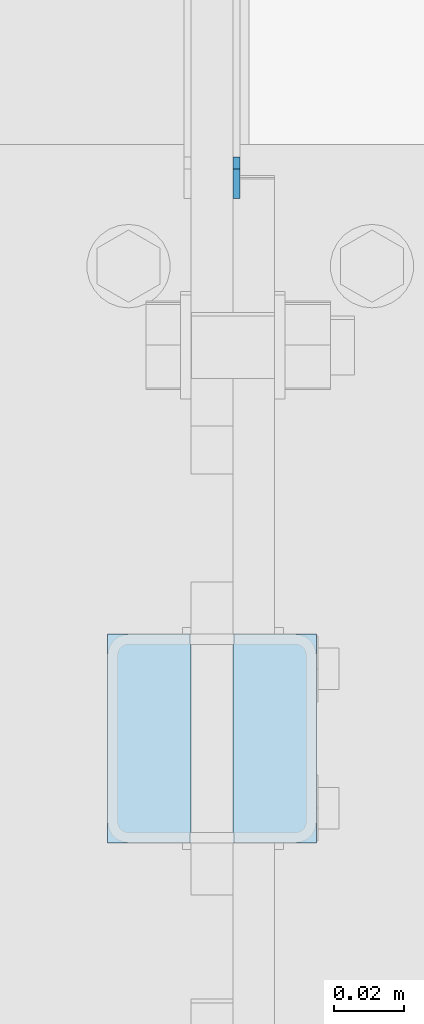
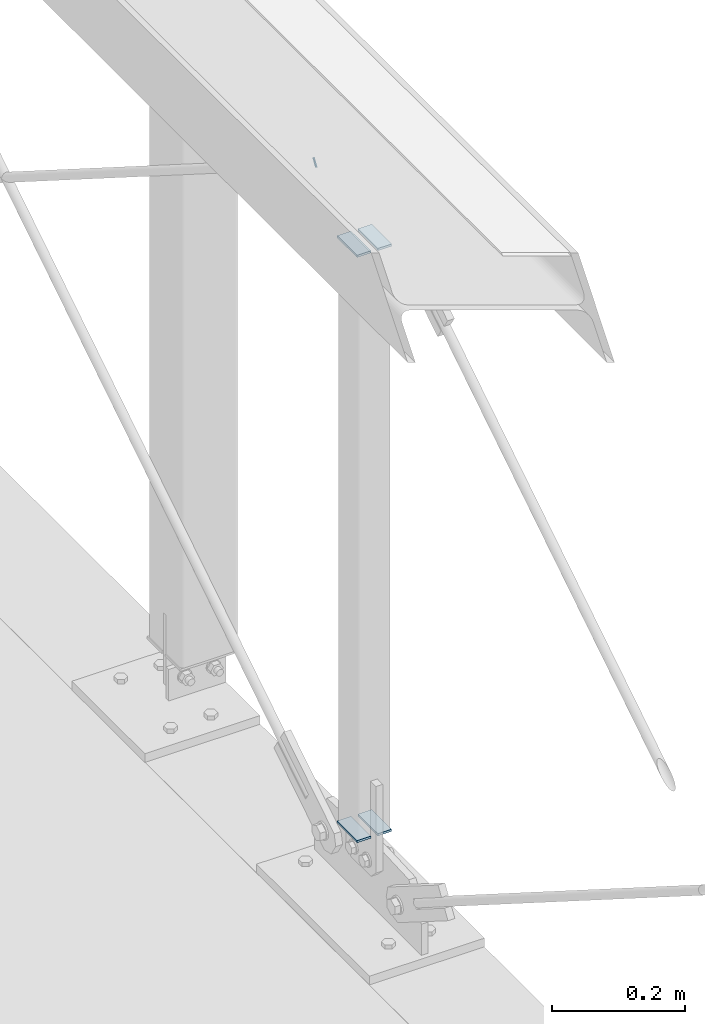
# One storey, part 212 of 271: 5 plates, 2 elements without a shape of their own.
"""IFC2X3 building model written with IfcOpenShell, lengths in millimetres."""

from ifc_helpers import new_model, si_unit, frame, origin_with_axes, place, context, subcontext, project, spatial, polyline, outline, extrude, material, type_object, element, aggregate, save


model = new_model("IFC2X3")

# Units and contexts
model_context = context("Model", 3, precision=1e-05, world=origin_with_axes())
body_context = subcontext(model_context, "Body", "Model", "MODEL_VIEW")
ifc_project = project(units=[si_unit("LENGTHUNIT", "METRE", prefix="MILLI"), si_unit("AREAUNIT", "SQUARE_METRE"), si_unit("VOLUMEUNIT", "CUBIC_METRE"), si_unit("MASSUNIT", "GRAM", prefix="KILO"), si_unit("TIMEUNIT", "SECOND"), si_unit("PLANEANGLEUNIT", "RADIAN"), si_unit("SOLIDANGLEUNIT", "STERADIAN"), si_unit("THERMODYNAMICTEMPERATUREUNIT", "DEGREE_CELSIUS"), si_unit("LUMINOUSINTENSITYUNIT", "LUMEN")], contexts=[model_context])

# Site, building, storey
site_placement = place(None, origin_with_axes())
site = spatial("IfcSite", under=ifc_project, at=site_placement, Name="Undefined", CompositionType="ELEMENT")
building_placement = place(site_placement, origin_with_axes())
building = spatial("IfcBuilding", under=site, at=building_placement, Name="Undefined", CompositionType="ELEMENT")
storey_placement = place(building_placement, origin_with_axes())
storey = spatial("IfcBuildingStorey", under=building, at=storey_placement, Name="Undefined", CompositionType="ELEMENT", Elevation=0.0)

# Assembly, plate
assembly_1_placement = place(storey_placement, origin_with_axes())
assembly_1 = element("IfcElementAssembly", 1, at=assembly_1_placement, inside=storey, AssemblyPlace="NOTDEFINED", PredefinedType="RIGID_FRAME")
ifc_material = material(Name="STEEL/S355JR")
plate_type_1 = type_object("IfcPlateType", Name="BL4*2", PredefinedType="NOTDEFINED")
plate_1_placement = place(assembly_1_placement, frame((12605.751374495, 2344.65152376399, 1269.00951553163), z_axis=(0.0, 0.84477188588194, -0.535126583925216), x_axis=(0.0, -0.535126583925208, -0.844771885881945)))
plate_1 = element("IfcPlate", 2, at=plate_1_placement, type_object=plate_type_1, material=ifc_material, Name="BLACHA", ObjectType="BL4*2", context=body_context, shape_type="SweptSolid", body=[
    extrude(outline(polyline([(0.0, 0.0), (15.9999980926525, -7.67386154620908e-13), (15.9999980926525, 1.99999964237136), (0.0, 1.99999964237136), (0.0, 0.0)])), frame((0.0, 0.0, -2.0), z_axis=(0.0, 0.0, 1.0), x_axis=(1.0, 0.0, 0.0)), (0.0, 0.0, 1.0), 4.0),
])
aggregate(assembly_1, [plate_1])

# Assembly, plates
assembly_2_placement = place(storey_placement, origin_with_axes())
assembly_2 = element("IfcElementAssembly", 3, at=assembly_2_placement, inside=storey, AssemblyPlace="NOTDEFINED", PredefinedType="RIGID_FRAME")
plate_type_2 = type_object("IfcPlateType", Name="BL4*24", PredefinedType="NOTDEFINED")
plate_2_placement = place(assembly_2_placement, frame((12567.751374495, 2149.19355050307, 142.231323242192), z_axis=(0.0, 0.0, 1.0), x_axis=(1.0, 0.0, 0.0)))
plate_2 = element("IfcPlate", 4, at=plate_2_placement, type_object=plate_type_2, material=ifc_material, Name="BLACHA", ObjectType="BL4*24", context=body_context, shape_type="SweptSolid", body=[
    extrude(outline(polyline([(0.0, 0.0), (24.0, 0.0), (24.0, 60.0), (0.0, 60.0), (0.0, 0.0)])), frame((0.0, 0.0, -2.0), z_axis=(0.0, 0.0, 1.0), x_axis=(1.0, 0.0, 0.0)), (0.0, 0.0, 1.0), 4.0),
])
plate_3_placement = place(assembly_2_placement, frame((12603.7513748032, 2149.19355050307, 142.231323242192), z_axis=(0.0, 0.0, 1.0), x_axis=(1.0, 0.0, 0.0)))
plate_3 = element("IfcPlate", 5, at=plate_3_placement, type_object=plate_type_2, material=ifc_material, Name="BLACHA", ObjectType="BL4*24", context=body_context, shape_type="SweptSolid", body=[
    extrude(outline(polyline([(0.0, 0.0), (24.0, 0.0), (24.0, 60.0), (0.0, 60.0), (0.0, 0.0)])), frame((0.0, 0.0, -2.0), z_axis=(0.0, 0.0, 1.0), x_axis=(1.0, 0.0, 0.0)), (0.0, 0.0, 1.0), 4.0),
])
plate_4_placement = place(assembly_2_placement, frame((12567.751374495, 2209.19355050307, 1218.24585413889), z_axis=(0.0, 0.0, -1.0), x_axis=(1.0, 0.0, 0.0)))
plate_4 = element("IfcPlate", 6, at=plate_4_placement, type_object=plate_type_2, material=ifc_material, Name="BLACHA", ObjectType="BL4*24", context=body_context, shape_type="SweptSolid", body=[
    extrude(outline(polyline([(0.0, 0.0), (24.0, 0.0), (24.0, 60.0), (0.0, 60.0), (0.0, 0.0)])), frame((0.0, 0.0, -2.0), z_axis=(0.0, 0.0, 1.0), x_axis=(1.0, 0.0, 0.0)), (0.0, 0.0, 1.0), 4.0),
])
plate_5_placement = place(assembly_2_placement, frame((12603.7513748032, 2209.19355050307, 1218.24585413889), z_axis=(0.0, 0.0, -1.0), x_axis=(1.0, 0.0, 0.0)))
plate_5 = element("IfcPlate", 7, at=plate_5_placement, type_object=plate_type_2, material=ifc_material, Name="BLACHA", ObjectType="BL4*24", context=body_context, shape_type="SweptSolid", body=[
    extrude(outline(polyline([(0.0, 0.0), (24.0, 0.0), (24.0, 60.0), (0.0, 60.0), (0.0, 0.0)])), frame((0.0, 0.0, -2.0), z_axis=(0.0, 0.0, 1.0), x_axis=(1.0, 0.0, 0.0)), (0.0, 0.0, 1.0), 4.0),
])
aggregate(assembly_2, [plate_2, plate_3, plate_4, plate_5])

save(model, "model.ifc")
